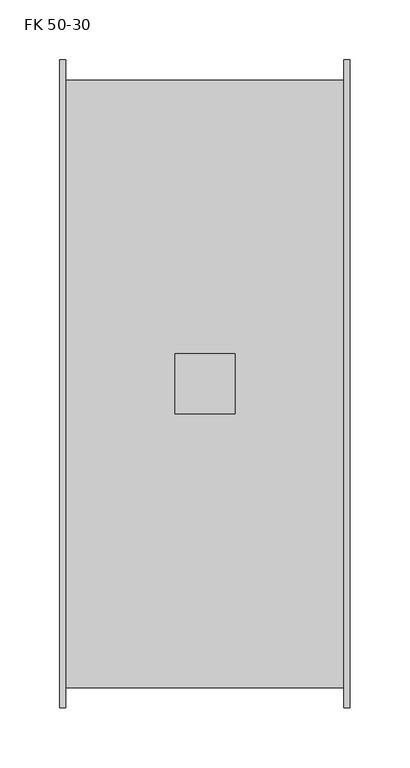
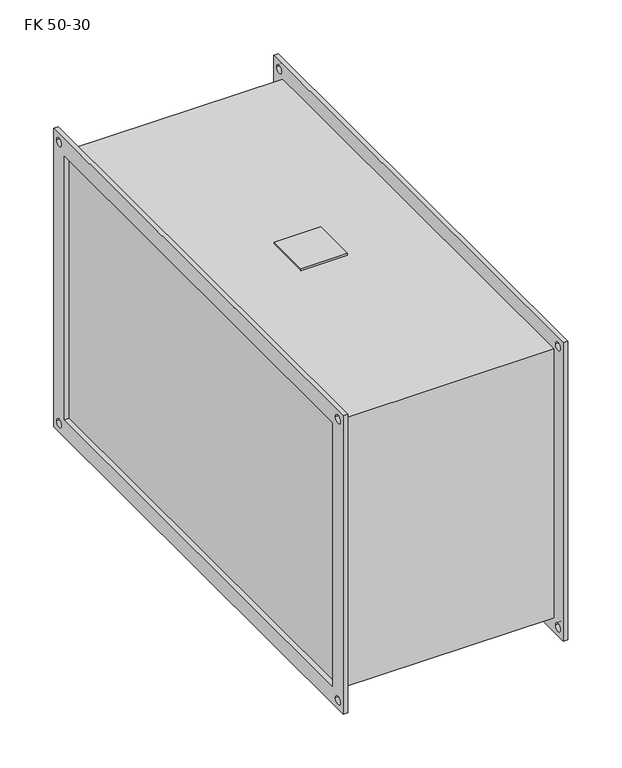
"""IFC4 building model written with IfcOpenShell, lengths in millimetres: damper geometry, KORF_Фильтр_Кассетный_FK : FK 50-30."""

import ifcopenshell
import ifcopenshell.guid

model = None  # the IFC model being written
_history = None  # IfcOwnerHistory: only IFC2X3 demands one
_inside = {}  # id of a spatial element -> (the spatial element, [elements in it])
_under = {}  # id of a project, library or spatial element -> (it, [spatial elements below it])
_declared = {}  # id of a project -> (the project, [libraries it declares])
_typed = {}  # id of a type object -> (the type object, [elements of that type])
_made_of = {}  # id of a material, layer set ... -> (it, [elements and type objects made of it])


def new_model(schema):
    """Start an empty IFC model of exactly this schema.

    Asked for "IFC4X3", IfcOpenShell would pick the latest addendum, in which some entities
    have other attributes; the version numbers below select the first issue.
    IFC2X3 requires an IfcOwnerHistory on every rooted entity: one is made here for all.
    """
    global model, _history
    if schema == "IFC4X3":
        model = ifcopenshell.file(schema_version=(4, 3, 0, 0))
    else:
        model = ifcopenshell.file(schema=schema)
    _inside.clear()
    _under.clear()
    _declared.clear()
    _typed.clear()
    _made_of.clear()
    _history = None
    if model.schema == "IFC2X3":
        org = make("IfcOrganization", Name="unknown")
        user = make(
            "IfcPersonAndOrganization",
            ThePerson=make("IfcPerson", FamilyName="unknown"),
            TheOrganization=org,
        )
        app = make(
            "IfcApplication",
            ApplicationDeveloper=org,
            Version="unknown",
            ApplicationFullName="unknown",
            ApplicationIdentifier="unknown",
        )
        _history = make(
            "IfcOwnerHistory",
            OwningUser=user,
            OwningApplication=app,
            ChangeAction="ADDED",
            CreationDate=0,
        )
    return model


def make(cls, **values):
    """One entity of the class cls with the attributes given. An attribute that is None is left unset."""
    return model.create_entity(
        cls, **{name: value for name, value in values.items() if value is not None}
    )


def rooted(cls, **values):
    """An entity with a GlobalId (a new one), such as an element, a storey or a relation."""
    return make(cls, GlobalId=ifcopenshell.guid.new(), OwnerHistory=_history, **values)


def si_unit(unit_type, name, prefix=None):
    """IfcSIUnit, for example si_unit("LENGTHUNIT", "METRE", prefix="MILLI")."""
    return make("IfcSIUnit", UnitType=unit_type, Prefix=prefix, Name=name)


def assignment(units):
    """IfcUnitAssignment: the units of a project."""
    return None if units is None else make("IfcUnitAssignment", Units=units)


def point(xyz):
    """IfcCartesianPoint."""
    return None if xyz is None else make("IfcCartesianPoint", Coordinates=xyz)


def direction(xyz):
    """IfcDirection."""
    return None if xyz is None else make("IfcDirection", DirectionRatios=xyz)


def frame(location, z_axis=None, x_axis=None):
    """IfcAxis2Placement3D, a coordinate frame: its origin and axes. An axis left out is left unset."""
    return make(
        "IfcAxis2Placement3D",
        Location=point(location),
        Axis=direction(z_axis),
        RefDirection=direction(x_axis),
    )


def frame_2d(location, x_axis=None):
    """IfcAxis2Placement2D, a coordinate frame in the plane: its origin and x axis."""
    return make(
        "IfcAxis2Placement2D", Location=point(location), RefDirection=direction(x_axis)
    )


def origin():
    """The frame at (0, 0, 0) with its axes left unset."""
    return frame((0.0, 0.0, 0.0))


def place(relative_to, where):
    """IfcLocalPlacement: puts the frame where relative to a parent placement (None: the world)."""
    return make(
        "IfcLocalPlacement", PlacementRelTo=relative_to, RelativePlacement=where
    )


def context(
    kind, dimensions, precision=None, world=None, true_north=None, identifier=None
):
    """IfcGeometricRepresentationContext, for example the 3D "Model" context."""
    return make(
        "IfcGeometricRepresentationContext",
        ContextIdentifier=identifier,
        ContextType=kind,
        CoordinateSpaceDimension=dimensions,
        Precision=precision,
        WorldCoordinateSystem=world,
        TrueNorth=true_north,
    )


def project(units=None, contexts=None):
    """IfcProject with its units and contexts."""
    return rooted(
        "IfcProject",
        Name="project",
        RepresentationContexts=contexts,
        UnitsInContext=assignment(units),
    )


def spatial(cls, under=None, at=None, **own):
    """A site, building, storey or space (cls), placed at a placement, below another one or the project."""
    s = rooted(cls, ObjectPlacement=at, **own)
    if under is not None:
        _under.setdefault(under.id(), (under, []))[1].append(s)
    return s


def polyline(points):
    """IfcPolyline through the points."""
    return make("IfcPolyline", Points=[point(p) for p in points])


def circle_curve(where, radius):
    """IfcCircle in the frame where."""
    return make("IfcCircle", Position=where, Radius=radius)


def trimmed(basis, trim1, trim2, sense, master):
    """IfcTrimmedCurve: the piece of a basis curve between two trims."""
    return make(
        "IfcTrimmedCurve",
        BasisCurve=basis,
        Trim1=trim1,
        Trim2=trim2,
        SenseAgreement=sense,
        MasterRepresentation=master,
    )


def segment(curve, same_sense, transition):
    """IfcCompositeCurveSegment."""
    return make(
        "IfcCompositeCurveSegment",
        Transition=transition,
        SameSense=same_sense,
        ParentCurve=curve,
    )


def composite_curve(segments, self_intersect=None):
    """IfcCompositeCurve: segments joined end to end."""
    return make("IfcCompositeCurve", Segments=segments, SelfIntersect=self_intersect)


def outline(outer, holes=None, kind="AREA"):
    """IfcArbitraryClosedProfileDef: a profile drawn as a closed curve; with holes, ...WithVoids."""
    if holes is None:
        return make("IfcArbitraryClosedProfileDef", ProfileType=kind, OuterCurve=outer)
    return make(
        "IfcArbitraryProfileDefWithVoids",
        ProfileType=kind,
        OuterCurve=outer,
        InnerCurves=holes,
    )


def extrude(swept, where, along, depth):
    """IfcExtrudedAreaSolid: the profile swept, set in the frame where, extruded along a direction by depth."""
    return make(
        "IfcExtrudedAreaSolid",
        SweptArea=swept,
        Position=where,
        ExtrudedDirection=direction(along),
        Depth=depth,
    )


def shape(context_of_items, identifier, shape_type, items):
    """IfcShapeRepresentation: the items that make up one representation, for example the "Body"."""
    return make(
        "IfcShapeRepresentation",
        ContextOfItems=context_of_items,
        RepresentationIdentifier=identifier,
        RepresentationType=shape_type,
        Items=items,
    )


def source(mapping_origin, context_of_items, identifier, shape_type, items):
    """IfcRepresentationMap: a shape defined once, which mapped items show again and again."""
    return make(
        "IfcRepresentationMap",
        MappingOrigin=mapping_origin,
        MappedRepresentation=shape(context_of_items, identifier, shape_type, items),
    )


def transform(
    local_origin,
    x_axis=None,
    y_axis=None,
    z_axis=None,
    scale=None,
    scale2=None,
    scale3=None,
    uniform=True,
):
    """IfcCartesianTransformationOperator3D, or its non-uniform kind. x_axis, y_axis, z_axis: its Axis1, 2, 3."""
    if uniform:
        return make(
            "IfcCartesianTransformationOperator3D",
            Axis1=direction(x_axis),
            Axis2=direction(y_axis),
            LocalOrigin=point(local_origin),
            Scale=scale,
            Axis3=direction(z_axis),
        )
    return make(
        "IfcCartesianTransformationOperator3DnonUniform",
        Axis1=direction(x_axis),
        Axis2=direction(y_axis),
        LocalOrigin=point(local_origin),
        Scale=scale,
        Axis3=direction(z_axis),
        Scale2=scale2,
        Scale3=scale3,
    )


def mapped(mapping_source, mapping_target):
    """IfcMappedItem: shows the shape of a source again, moved by a transform."""
    return make(
        "IfcMappedItem", MappingSource=mapping_source, MappingTarget=mapping_target
    )


def made_of(thing, what):
    """Note that an element or type object is made of a material, layer set ...; save() writes the relation."""
    if what is not None:
        _made_of.setdefault(what.id(), (what, []))[1].append(thing)
    return thing


def element(
    cls,
    number,
    at=None,
    inside=None,
    cuts=None,
    type_object=None,
    material=None,
    context=None,
    identifier="Body",
    shape_type=None,
    held_by="IfcProductDefinitionShape",
    body=None,
    shapes=None,
    **own,
):
    """One element of the class cls, such as IfcWall. Its Tag is "e" and its number.

    at: its placement. inside: the storey or other place that contains it. cuts: it is an
    opening in that element (IfcRelVoidsElement). A single representation is given by context,
    identifier, shape_type and body (its items); several are given by shapes. held_by: the class
    of the entity that holds the representations. save() writes the other relations.
    """
    e = rooted(cls, Tag="e%d" % number, ObjectPlacement=at, **own)
    if body is not None:
        shapes = [shape(context, identifier, shape_type, body)]
    if shapes is not None:
        e.Representation = make(held_by, Representations=shapes)
    if inside is not None:
        _inside.setdefault(inside.id(), (inside, []))[1].append(e)
    if cuts is not None:
        rooted(
            "IfcRelVoidsElement", RelatingBuildingElement=cuts, RelatedOpeningElement=e
        )
    if type_object is not None:
        _typed.setdefault(type_object.id(), (type_object, []))[1].append(e)
    return made_of(e, material)


def aggregate(whole, parts):
    """IfcRelAggregates: a whole, such as a stair, and the parts it consists of."""
    return rooted("IfcRelAggregates", RelatingObject=whole, RelatedObjects=parts)


def save(model, path):
    """Write the relations noted so far, then the file.

    IfcRelAggregates (storeys below a building ...), IfcRelContainedInSpatialStructure (elements
    in a storey), IfcRelDefinesByType, IfcRelAssociatesMaterial and IfcRelDeclares: one each for
    every whole, place, type object, material and project.
    """
    for whole, parts in _under.values():
        aggregate(whole, parts)
    for where, things in _inside.values():
        rooted(
            "IfcRelContainedInSpatialStructure",
            RelatedElements=things,
            RelatingStructure=where,
        )
    for kind, things in _typed.values():
        rooted("IfcRelDefinesByType", RelatedObjects=things, RelatingType=kind)
    for what, things in _made_of.values():
        rooted("IfcRelAssociatesMaterial", RelatedObjects=things, RelatingMaterial=what)
    for by, libraries in _declared.values():
        rooted("IfcRelDeclares", RelatingContext=by, RelatedDefinitions=libraries)
    model.write(path)


def fk_50_30_b05a340d(model_context):
    return source(origin(), model_context, "Body", "SweptSolid", [
        extrude(outline(polyline([(96.0, -25.0), (96.0, 25.0), (146.0, 25.0), (146.0, -25.0), (96.0, -25.0)])), frame((0.0, 0.0, 153.0), z_axis=(0.0, 0.0, 1.0), x_axis=(1.0, 0.0, 0.0)), (0.0, 0.0, 1.0), 2.0),
        extrude(outline(polyline([(-270.0, 170.0), (270.0, 170.0), (270.0, -170.0), (-270.0, -170.0), (-270.0, 170.0)]), holes=[polyline([(-250.0, 150.0), (-250.0, -150.0), (250.0, -150.0), (250.0, 150.0), (-250.0, 150.0)]), composite_curve([segment(trimmed(circle_curve(frame_2d((260.0, 160.0)), 4.5), [point((255.5, 160.0))], [point((264.5, 160.0))], True, "CARTESIAN"), True, "CONTINUOUS"), segment(trimmed(circle_curve(frame_2d((260.0, 160.0)), 4.5), [point((264.5, 160.0))], [point((255.5, 160.0))], True, "CARTESIAN"), True, "CONTINUOUS")], self_intersect=False), composite_curve([segment(trimmed(circle_curve(frame_2d((-260.0, 160.0)), 4.5), [point((-264.5, 160.0))], [point((-255.5, 160.0))], True, "CARTESIAN"), True, "CONTINUOUS"), segment(trimmed(circle_curve(frame_2d((-260.0, 160.0)), 4.5), [point((-255.5, 160.0))], [point((-264.5, 160.0))], True, "CARTESIAN"), True, "CONTINUOUS")], self_intersect=False), composite_curve([segment(trimmed(circle_curve(frame_2d((-260.0, -160.0)), 4.5), [point((-264.5, -160.0))], [point((-255.5, -160.0))], True, "CARTESIAN"), True, "CONTINUOUS"), segment(trimmed(circle_curve(frame_2d((-260.0, -160.0)), 4.5), [point((-255.5, -160.0))], [point((-264.5, -160.0))], True, "CARTESIAN"), True, "CONTINUOUS")], self_intersect=False), composite_curve([segment(trimmed(circle_curve(frame_2d((260.0, -160.0)), 4.5), [point((255.5, -160.0))], [point((264.5, -160.0))], True, "CARTESIAN"), True, "CONTINUOUS"), segment(trimmed(circle_curve(frame_2d((260.0, -160.0)), 4.5), [point((264.5, -160.0))], [point((255.5, -160.0))], True, "CARTESIAN"), True, "CONTINUOUS")], self_intersect=False)]), frame((237.0, 0.0, 0.0), z_axis=(1.0, 0.0, 0.0), x_axis=(0.0, 1.0, 0.0)), (0.0, 0.0, 1.0), 5.0),
        extrude(outline(polyline([(-270.0, 170.0), (270.0, 170.0), (270.0, -170.0), (-270.0, -170.0), (-270.0, 170.0)]), holes=[polyline([(-250.0, 150.0), (-250.0, -150.0), (250.0, -150.0), (250.0, 150.0), (-250.0, 150.0)]), composite_curve([segment(trimmed(circle_curve(frame_2d((260.0, 160.0)), 4.5), [point((255.5, 160.0))], [point((264.5, 160.0))], True, "CARTESIAN"), True, "CONTINUOUS"), segment(trimmed(circle_curve(frame_2d((260.0, 160.0)), 4.5), [point((264.5, 160.0))], [point((255.5, 160.0))], True, "CARTESIAN"), True, "CONTINUOUS")], self_intersect=False), composite_curve([segment(trimmed(circle_curve(frame_2d((-260.0, 160.0)), 4.5), [point((-264.5, 160.0))], [point((-255.5, 160.0))], True, "CARTESIAN"), True, "CONTINUOUS"), segment(trimmed(circle_curve(frame_2d((-260.0, 160.0)), 4.5), [point((-255.5, 160.0))], [point((-264.5, 160.0))], True, "CARTESIAN"), True, "CONTINUOUS")], self_intersect=False), composite_curve([segment(trimmed(circle_curve(frame_2d((-260.0, -160.0)), 4.5), [point((-264.5, -160.0))], [point((-255.5, -160.0))], True, "CARTESIAN"), True, "CONTINUOUS"), segment(trimmed(circle_curve(frame_2d((-260.0, -160.0)), 4.5), [point((-255.5, -160.0))], [point((-264.5, -160.0))], True, "CARTESIAN"), True, "CONTINUOUS")], self_intersect=False), composite_curve([segment(trimmed(circle_curve(frame_2d((260.0, -160.0)), 4.5), [point((255.5, -160.0))], [point((264.5, -160.0))], True, "CARTESIAN"), True, "CONTINUOUS"), segment(trimmed(circle_curve(frame_2d((260.0, -160.0)), 4.5), [point((264.5, -160.0))], [point((255.5, -160.0))], True, "CARTESIAN"), True, "CONTINUOUS")], self_intersect=False)]), frame((0.0, 0.0, 0.0), z_axis=(1.0, 0.0, 0.0), x_axis=(0.0, 1.0, 0.0)), (0.0, 0.0, 1.0), 5.0),
        extrude(outline(polyline([(237.0, 253.0), (237.0, -253.0), (5.0, -253.0), (5.0, 253.0), (237.0, 253.0)])), frame((0.0, 0.0, -153.0), z_axis=(0.0, 0.0, 1.0), x_axis=(1.0, 0.0, 0.0)), (0.0, 0.0, 1.0), 306.0),
    ])


if __name__ == "__main__":
    model = new_model("IFC4")
    model_context = context("Model", 3, world=origin())
    ifc_project = project(units=[si_unit("LENGTHUNIT", "METRE", prefix="MILLI")], contexts=[model_context])
    site = spatial("IfcSite", under=ifc_project)
    building = spatial("IfcBuilding", under=site)
    placement = place(None, origin())
    fk_50_30_shape = fk_50_30_b05a340d(model_context)
    element("IfcDamper", 1, ObjectType="KORF_Фильтр_Кассетный_FK : FK 50-30", at=placement, inside=building, context=model_context, shape_type="MappedRepresentation", body=[
        mapped(fk_50_30_shape, transform((0.0, 0.0, 0.0), x_axis=(1.0, 0.0, 0.0), y_axis=(0.0, 1.0, 0.0), z_axis=(0.0, 0.0, 1.0))),
    ])
    save(model, "model.ifc")
